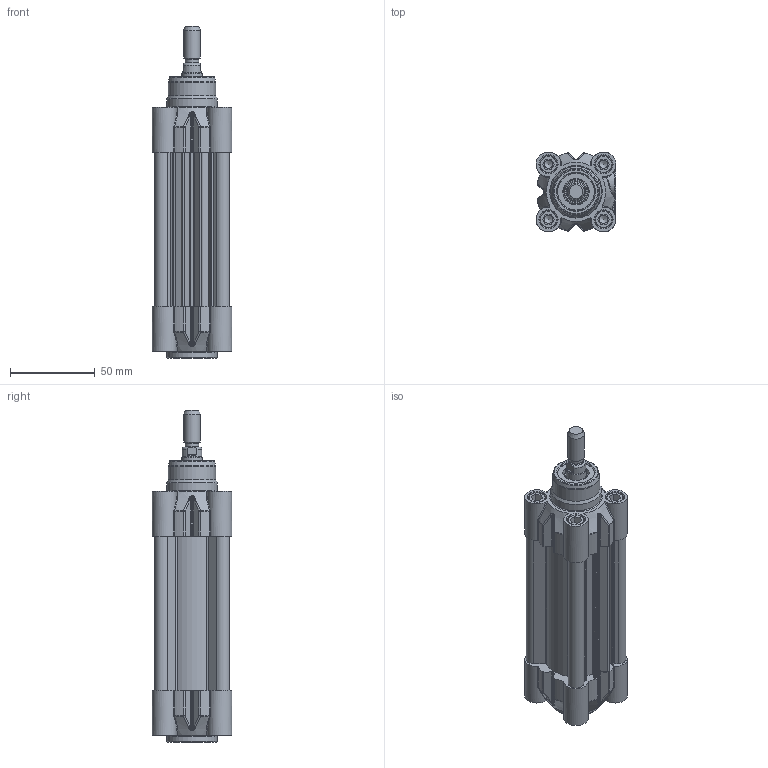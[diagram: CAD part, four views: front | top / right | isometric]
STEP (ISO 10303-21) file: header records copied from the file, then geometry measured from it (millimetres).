
FILE_DESCRIPTION(/* description */ ('CILINDRO D.E. MAGNETICO AMMORTIZZATO ISO 15552'),/* implementation_level */ '2;1');
FILE_NAME(/* name */ 'T:\Archivio Inventor\- 00 NUOVI STP PER SITO CON STELO CHE SI MUOVE\SERIE H - U\SERIE HDM\HDM032-TUBO NUOVO\HDM032.050.GS.M.stp',/* time_stamp */ '2018-07-25T10:26:27+02:00',/* author */ ('carlo.corazza'),/* organization */ (''),/* preprocessor_version */ 'ST-DEVELOPER v16.5',/* originating_system */ 'Autodesk Inventor 2017',/* authorisation */ '');
FILE_SCHEMA (('AUTOMOTIVE_DESIGN { 1 0 10303 214 3 1 1 }'));
Length unit declared in the file: millimetre
Products named in the file (5): HDM032.050.GS.M; TP; STELO-050; TA; CORPO-050
Assembly tree (4 placements, depth 2):
  HDM032.050.GS.M
    TP
    STELO-050
    TA
    CORPO-050
Bounding box: 47 x 47 x 196 mm (x, y, z)
Volume: 155645.6 mm3; surface area: 92333 mm2
Topology: 4 solids, 18 shells, 969 faces, 2356 edges, 1494 vertices
Faces by surface type: plane 330, cylinder 260, bspline 190, cone 86, torus 83, sphere 20
Full cylindrical faces by diameter (mm): 2 x2, 2.1 x2, 4 x2, 4.5 x2, 4.917 x8, 6 x8, 6.2 x8, 6.3 x4, 7 x2, 7.8 x4, 7.9 x3, 8 x4, 8.566 x2, 10 x9, 10.3 x8, 11.6 x1, 12 x1, 12.8 x1, 12.847 x1, 16 x1, 17 x2, 22 x3, 28 x1, 30 x2, 32 x1
Entity records: 31186 total; most frequent: CARTESIAN_POINT 9171, ORIENTED_EDGE 4162, DIRECTION 4048, EDGE_CURVE 2081, AXIS2_PLACEMENT_3D 1569, VERTEX_POINT 1436, EDGE_LOOP 1302, FACE_OUTER_BOUND 969
